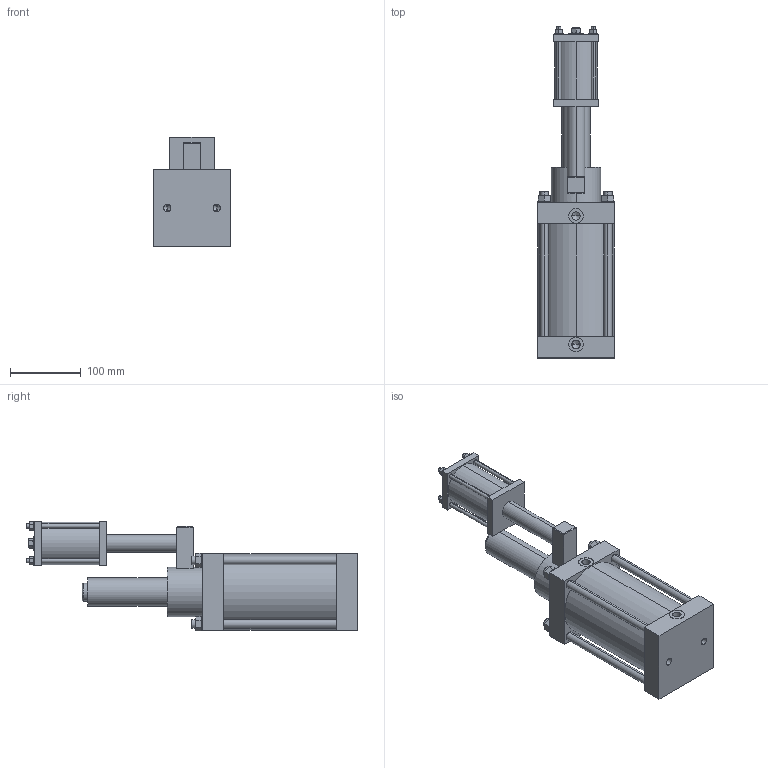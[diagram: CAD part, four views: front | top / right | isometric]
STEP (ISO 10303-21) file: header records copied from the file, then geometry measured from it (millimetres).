
FILE_DESCRIPTION (( 'STEP AP203' ), '1' );
FILE_NAME ('6110-103.STEP', '2016-01-29T10:38:01', ( '' ), ( '' ), 'SwSTEP 2.0', 'SolidWorks 2015', '' );
FILE_SCHEMA (( 'CONFIG_CONTROL_DESIGN' ));
Length unit declared in the file: millimetre
Products named in the file (1): 6110-103
Bounding box: 110 x 470 x 155.5 mm (x, y, z)
Volume: 1499608.1 mm3; surface area: 306120.8 mm2
Topology: 1 solids, 4 shells, 287 faces, 659 edges, 409 vertices
Faces by surface type: plane 183, cylinder 82, cone 20, torus 2
Entity records: 8346 total; most frequent: CARTESIAN_POINT 1650, DIRECTION 1433, ORIENTED_EDGE 1298, EDGE_CURVE 649, AXIS2_PLACEMENT_3D 520, VERTEX_POINT 409, VECTOR 393, LINE 393
